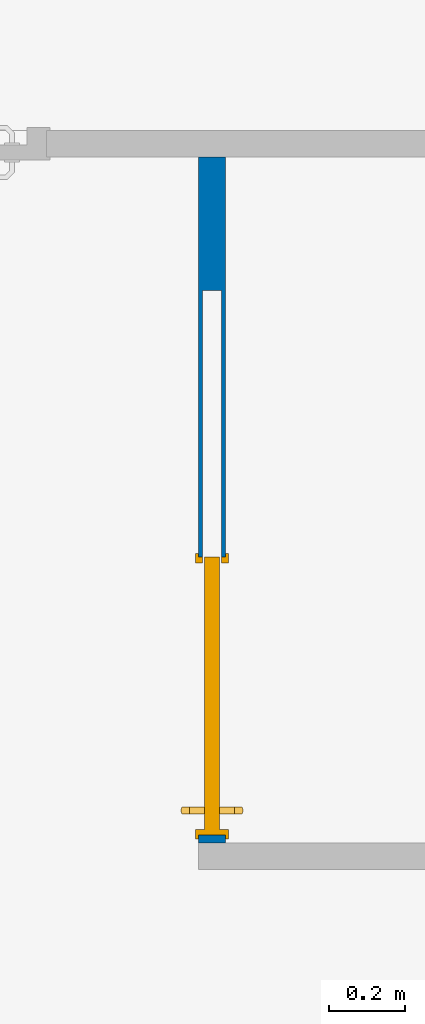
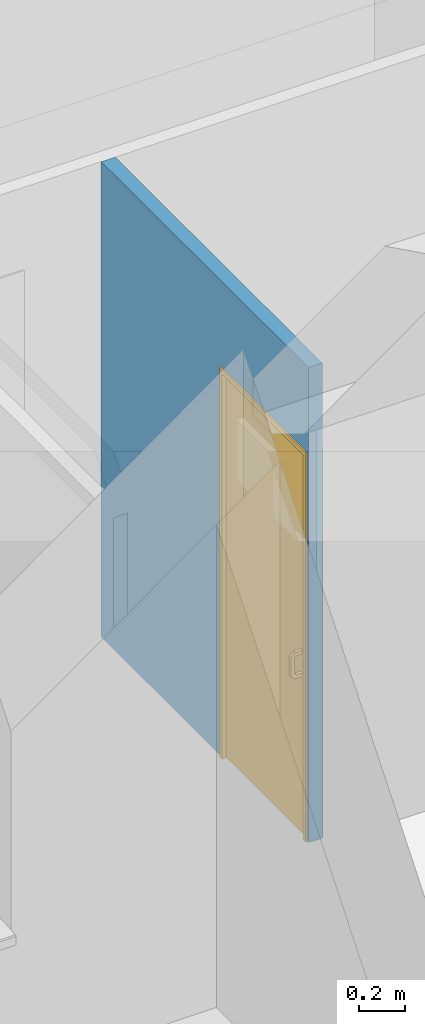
# One storey, part 29 of 50: 1 door, 1 wall, 1 opening.
"""IFC2X3 building model written with IfcOpenShell, lengths in metres."""

from ifc_helpers import new_model, entity, si_unit, converted_unit, derived_unit, direction, frame, frame_2d, origin, place, context, subcontext, project, spatial, rectangle, extrude, faceted_brep, source, transform, mapped, material, material_list, layer, layer_set, layer_usage, type_object, type_shapes, element, fill, save


model = new_model("IFC2X3")

# Units and contexts
model_context = context("Model", 3, precision=1e-05, world=origin(), true_north=direction((6.12303176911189e-17, 1.0)))
context_of_model = context(None, 3, precision=1e-05, world=origin(), true_north=direction((6.12303176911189e-17, 1.0)))
body_context = subcontext(model_context, "Body", "Model", "MODEL_VIEW")
ifc_project = project(units=[si_unit("LENGTHUNIT", "METRE"), si_unit("AREAUNIT", "SQUARE_METRE"), si_unit("VOLUMEUNIT", "CUBIC_METRE"), converted_unit("PLANEANGLEUNIT", "DEGREE", entity("IfcRatioMeasure", 0.0174532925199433), si_unit("PLANEANGLEUNIT", "RADIAN"), dimensions=[0, 0, 0, 0, 0, 0, 0]), si_unit("MASSUNIT", "GRAM", prefix="KILO"), si_unit("TIMEUNIT", "SECOND"), si_unit("FREQUENCYUNIT", "HERTZ"), si_unit("THERMODYNAMICTEMPERATUREUNIT", "DEGREE_CELSIUS"), derived_unit("THERMALTRANSMITTANCEUNIT", [(si_unit("MASSUNIT", "GRAM", prefix="KILO"), 1), (si_unit("THERMODYNAMICTEMPERATUREUNIT", "KELVIN"), -1), (si_unit("TIMEUNIT", "SECOND"), -3)]), derived_unit("VOLUMETRICFLOWRATEUNIT", [(si_unit("LENGTHUNIT", "METRE"), 3), (si_unit("TIMEUNIT", "SECOND"), -1)]), si_unit("ELECTRICCURRENTUNIT", "AMPERE"), si_unit("ELECTRICVOLTAGEUNIT", "VOLT"), si_unit("POWERUNIT", "WATT"), si_unit("FORCEUNIT", "NEWTON", prefix="KILO"), si_unit("ILLUMINANCEUNIT", "LUX"), si_unit("LUMINOUSFLUXUNIT", "LUMEN"), si_unit("LUMINOUSINTENSITYUNIT", "CANDELA"), si_unit("PRESSUREUNIT", "PASCAL")], contexts=[model_context, context_of_model])

# Site, building, storey
site_placement = place(None, origin())
site = spatial("IfcSite", under=ifc_project, at=site_placement, Name="Surface", CompositionType="ELEMENT")
building_placement = place(site_placement, origin())
building = spatial("IfcBuilding", under=site, at=building_placement, CompositionType="ELEMENT")
storey_placement = place(building_placement, frame((0.0, 0.0, 2.82)))
storey = spatial("IfcBuildingStorey", under=building, at=storey_placement, Name="ETAGE", CompositionType="ELEMENT", Elevation=2.82)

# Wall, opening, door
ifc_material_1 = material(Name="Peinture - Blanc")
ifc_layer = layer(ifc_material_1, 0.07)
ifc_layer_set = layer_set([ifc_layer], Name="Mur de base:Int.  Platre 70 mm en blanc")
ifc_layer_usage = layer_usage(ifc_layer_set, "AXIS2", "POSITIVE", -0.035)
wall_type = type_object("IfcWallType", Name="Mur de base:Int.  Platre 70 mm en blanc", PredefinedType="STANDARD", material=ifc_layer_set)
wall_placement = place(storey_placement, frame((81.0960189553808, 86.6075239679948, 0.0), z_axis=(0.0, 0.0, 1.0), x_axis=(0.0, -1.0, 0.0)))
wall = element("IfcWallStandardCase", 1, at=wall_placement, inside=storey, type_object=wall_type, material=ifc_layer_usage, Name="Mur de base:Int.  Platre 70 mm en blanc", ObjectType="Mur de base:Int.  Platre 70 mm en blanc", context=body_context, shape_type="SweptSolid", body=[
    extrude(rectangle(XDim=1.80000000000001, YDim=0.0699999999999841, at=frame_2d((0.900000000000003, 0.0), x_axis=(-1.0, 0.0))), origin(), (0.0, 0.0, 1.0), 2.52),
])
opening_placement = place(wall_placement, frame((1.77999999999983, -0.185000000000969, 0.0), z_axis=(0.0, 0.0, 1.0), x_axis=(0.0, 1.0, 0.0)))
opening = element("IfcOpeningElement", 2, at=opening_placement, cuts=wall, Name="Mur de base:Int.  Platre 70 mm en blanc", ObjectType="Opening", context=body_context, shape_type="Brep", body=[
    faceted_brep([(0.0, 0.0, 2.055), (0.0, 0.0, 0.0), (0.370000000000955, 0.0, 0.0), (0.370000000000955, 0.0, 2.055), (0.0, 0.729999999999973, 2.055), (0.0, 0.729999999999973, 0.0), (0.160000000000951, 0.729999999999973, 2.055), (0.160000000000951, 0.729999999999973, 0.0), (0.160000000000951, 1.42999999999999, 2.055), (0.160000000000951, 1.42999999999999, 0.0), (0.210000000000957, 1.42999999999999, 2.055), (0.210000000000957, 1.42999999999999, 0.0), (0.210000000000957, 0.729999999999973, 2.055), (0.210000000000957, 0.729999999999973, 0.0), (0.370000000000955, 0.72999999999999, 2.055), (0.370000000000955, 0.72999999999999, 0.0)], [[[0, 1, 2, 3]], [[4, 5, 1, 0]], [[6, 7, 5, 4]], [[8, 9, 7, 6]], [[10, 11, 9, 8]], [[12, 13, 11, 10]], [[14, 12, 10, 8, 6, 4, 0, 3]], [[15, 2, 1, 5, 7, 9, 11, 13]], [[3, 2, 15, 14]], [[14, 15, 13, 12]]]),
])
ifc_material_2 = material(Name="Porte - Poignée")
ifc_material_3 = material(Name="Porte - Panneau")
ifc_material_4 = material(Name="Porte - Cadre")
ifc_material_list_1 = material_list([ifc_material_2, ifc_material_3, ifc_material_4])
ifc_material_list_2 = material_list([ifc_material_2, ifc_material_3, ifc_material_4])
door_style = type_object("IfcDoorStyle", Name="0.70m x 2.04m 2", ConstructionType="NOTDEFINED", OperationType="SLIDING_TO_LEFT", ParameterTakesPrecedence=False, Sizeable=False, material=ifc_material_list_2)
shared_shape = source(origin(), body_context, "Body", "Brep", [
    faceted_brep([(0.778370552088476, 0.300805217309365, 0.949316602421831), (0.783009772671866, 0.300805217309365, 0.94874401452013), (0.787648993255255, 0.300805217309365, 0.94931660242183), (0.792009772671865, 0.300805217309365, 0.951000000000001), (0.792009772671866, 0.300805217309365, 0.969), (0.787648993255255, 0.300805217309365, 0.97068339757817), (0.783009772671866, 0.300805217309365, 0.971255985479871), (0.778370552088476, 0.300805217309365, 0.97068339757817), (0.774009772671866, 0.300805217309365, 0.969), (0.774009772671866, 0.300805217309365, 0.951000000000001), (0.778370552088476, 0.300805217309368, 0.850683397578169), (0.774009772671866, 0.300805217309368, 0.848999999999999), (0.774009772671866, 0.300805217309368, 0.831), (0.778370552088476, 0.300805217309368, 0.829316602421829), (0.783009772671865, 0.300805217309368, 0.828744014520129), (0.787648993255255, 0.300805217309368, 0.829316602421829), (0.792009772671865, 0.300805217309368, 0.831), (0.792009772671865, 0.300805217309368, 0.848999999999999), (0.787648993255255, 0.300805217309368, 0.850683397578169), (0.783009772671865, 0.300805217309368, 0.85125598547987), (0.792009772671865, 0.339533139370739, 0.831), (0.792009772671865, 0.359805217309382, 0.851272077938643), (0.792009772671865, 0.359805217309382, 0.948727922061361), (0.792009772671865, 0.33953313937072, 0.969), (0.792009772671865, 0.33207729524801, 0.951000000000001), (0.792009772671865, 0.341805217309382, 0.941272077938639), (0.792009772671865, 0.341805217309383, 0.858727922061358), (0.792009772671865, 0.332077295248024, 0.848999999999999), (0.787648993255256, 0.340230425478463, 0.97068339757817), (0.783009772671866, 0.340467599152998, 0.971255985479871), (0.778370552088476, 0.340230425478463, 0.97068339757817), (0.774009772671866, 0.33953313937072, 0.969), (0.774009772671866, 0.359805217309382, 0.948727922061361), (0.774009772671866, 0.359805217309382, 0.851272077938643), (0.774009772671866, 0.339533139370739, 0.831), (0.774009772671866, 0.332077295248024, 0.848999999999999), (0.774009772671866, 0.341805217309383, 0.858727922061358), (0.774009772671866, 0.341805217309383, 0.94127207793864), (0.774009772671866, 0.33207729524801, 0.951000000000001), (0.778370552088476, 0.331380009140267, 0.949316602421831), (0.783009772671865, 0.331142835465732, 0.94874401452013), (0.787648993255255, 0.331380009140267, 0.94931660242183), (0.787648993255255, 0.361488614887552, 0.949425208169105), (0.783009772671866, 0.362061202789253, 0.949662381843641), (0.778370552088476, 0.361488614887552, 0.949425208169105), (0.778370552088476, 0.340121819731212, 0.940574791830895), (0.783009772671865, 0.339549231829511, 0.940337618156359), (0.787648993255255, 0.340121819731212, 0.940574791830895), (0.787648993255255, 0.361488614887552, 0.850574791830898), (0.783009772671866, 0.362061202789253, 0.850337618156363), (0.778370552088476, 0.361488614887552, 0.850574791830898), (0.778370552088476, 0.340121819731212, 0.859425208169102), (0.783009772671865, 0.339549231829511, 0.859662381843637), (0.787648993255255, 0.340121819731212, 0.859425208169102), (0.787648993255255, 0.340230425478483, 0.829316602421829), (0.783009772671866, 0.340467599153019, 0.828744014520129), (0.778370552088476, 0.340230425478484, 0.829316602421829), (0.778370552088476, 0.33138000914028, 0.850683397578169), (0.783009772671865, 0.331142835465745, 0.85125598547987), (0.787648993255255, 0.33138000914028, 0.850683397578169)], [[[0, 1, 2, 3, 4, 5, 6, 7, 8, 9]], [[10, 11, 12, 13, 14, 15, 16, 17, 18, 19]], [[16, 20, 21, 22, 23, 4, 3, 24, 25, 26, 27, 17]], [[23, 28, 5, 4]], [[5, 28, 29, 6]], [[30, 7, 6, 29]], [[7, 30, 31, 8]], [[8, 31, 32, 33, 34, 12, 11, 35, 36, 37, 38, 9]], [[38, 39, 0, 9]], [[1, 0, 39, 40]], [[41, 24, 3, 2]], [[41, 2, 1, 40]], [[22, 42, 28, 23]], [[28, 42, 43, 29]], [[43, 44, 30, 29]], [[44, 32, 31, 30]], [[37, 45, 39, 38]], [[39, 45, 46, 40]], [[47, 25, 24, 41]], [[41, 40, 46, 47]], [[21, 48, 42, 22]], [[42, 48, 49, 43]], [[49, 50, 44, 43]], [[50, 33, 32, 44]], [[36, 51, 45, 37]], [[46, 45, 51, 52]], [[53, 26, 25, 47]], [[53, 47, 46, 52]], [[20, 54, 48, 21]], [[48, 54, 55, 49]], [[55, 56, 50, 49]], [[56, 34, 33, 50]], [[35, 57, 51, 36]], [[51, 57, 58, 52]], [[59, 27, 26, 53]], [[53, 52, 58, 59]], [[16, 15, 54, 20]], [[55, 54, 15, 14]], [[13, 12, 34, 56]], [[13, 56, 55, 14]], [[11, 10, 57, 35]], [[58, 57, 10, 19]], [[18, 17, 27, 59]], [[59, 58, 19, 18]]]),
    faceted_brep([(0.778370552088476, 0.260805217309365, 0.97068339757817), (0.783009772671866, 0.260805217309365, 0.971255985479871), (0.787648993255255, 0.260805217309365, 0.97068339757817), (0.792009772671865, 0.260805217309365, 0.969), (0.792009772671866, 0.260805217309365, 0.951000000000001), (0.787648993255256, 0.260805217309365, 0.94931660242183), (0.783009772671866, 0.260805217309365, 0.94874401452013), (0.778370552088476, 0.260805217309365, 0.94931660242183), (0.774009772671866, 0.260805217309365, 0.951000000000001), (0.774009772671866, 0.260805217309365, 0.969), (0.783009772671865, 0.260805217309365, 0.828744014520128), (0.778370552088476, 0.260805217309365, 0.829316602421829), (0.774009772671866, 0.260805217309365, 0.831), (0.774009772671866, 0.260805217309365, 0.848999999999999), (0.778370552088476, 0.260805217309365, 0.850683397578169), (0.783009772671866, 0.260805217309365, 0.85125598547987), (0.787648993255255, 0.260805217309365, 0.850683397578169), (0.792009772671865, 0.260805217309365, 0.848999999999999), (0.792009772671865, 0.260805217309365, 0.831), (0.787648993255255, 0.260805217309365, 0.829316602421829), (0.774009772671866, 0.222077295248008, 0.969), (0.778370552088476, 0.221380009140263, 0.97068339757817), (0.783009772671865, 0.221142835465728, 0.971255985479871), (0.787648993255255, 0.221380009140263, 0.970683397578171), (0.792009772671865, 0.222077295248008, 0.969), (0.792009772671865, 0.201805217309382, 0.948727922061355), (0.792009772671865, 0.201805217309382, 0.851272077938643), (0.792009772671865, 0.222077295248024, 0.831), (0.792009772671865, 0.22953313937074, 0.848999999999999), (0.792009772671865, 0.219805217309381, 0.858727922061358), (0.792009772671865, 0.219805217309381, 0.941272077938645), (0.792009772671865, 0.229533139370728, 0.951000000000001), (0.787648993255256, 0.230230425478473, 0.94931660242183), (0.783009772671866, 0.230467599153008, 0.94874401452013), (0.778370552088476, 0.230230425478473, 0.94931660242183), (0.774009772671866, 0.229533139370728, 0.951000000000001), (0.774009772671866, 0.222077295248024, 0.831), (0.774009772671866, 0.201805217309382, 0.851272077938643), (0.774009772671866, 0.201805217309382, 0.948727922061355), (0.774009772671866, 0.219805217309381, 0.941272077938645), (0.774009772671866, 0.219805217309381, 0.858727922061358), (0.774009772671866, 0.229533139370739, 0.848999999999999), (0.778370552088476, 0.200121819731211, 0.949425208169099), (0.783009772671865, 0.199549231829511, 0.949662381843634), (0.787648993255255, 0.200121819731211, 0.949425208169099), (0.787648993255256, 0.221488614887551, 0.940574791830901), (0.783009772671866, 0.222061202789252, 0.940337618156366), (0.778370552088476, 0.221488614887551, 0.940574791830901), (0.778370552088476, 0.200121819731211, 0.850574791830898), (0.783009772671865, 0.19954923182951, 0.850337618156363), (0.787648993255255, 0.200121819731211, 0.850574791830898), (0.787648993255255, 0.221488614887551, 0.859425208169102), (0.783009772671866, 0.222061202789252, 0.859662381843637), (0.778370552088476, 0.221488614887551, 0.859425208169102), (0.778370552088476, 0.22138000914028, 0.829316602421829), (0.783009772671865, 0.221142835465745, 0.828744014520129), (0.787648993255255, 0.22138000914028, 0.829316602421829), (0.787648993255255, 0.230230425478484, 0.850683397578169), (0.783009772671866, 0.230467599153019, 0.85125598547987), (0.778370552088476, 0.230230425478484, 0.850683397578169)], [[[0, 1, 2, 3, 4, 5, 6, 7, 8, 9]], [[10, 11, 12, 13, 14, 15, 16, 17, 18, 19]], [[20, 21, 0, 9]], [[0, 21, 22, 1]], [[23, 2, 1, 22]], [[2, 23, 24, 3]], [[3, 24, 25, 26, 27, 18, 17, 28, 29, 30, 31, 4]], [[31, 32, 5, 4]], [[6, 5, 32, 33]], [[34, 35, 8, 7]], [[34, 7, 6, 33]], [[12, 36, 37, 38, 20, 9, 8, 35, 39, 40, 41, 13]], [[38, 42, 21, 20]], [[21, 42, 43, 22]], [[43, 44, 23, 22]], [[44, 25, 24, 23]], [[30, 45, 32, 31]], [[32, 45, 46, 33]], [[47, 39, 35, 34]], [[34, 33, 46, 47]], [[37, 48, 42, 38]], [[42, 48, 49, 43]], [[49, 50, 44, 43]], [[50, 26, 25, 44]], [[29, 51, 45, 30]], [[46, 45, 51, 52]], [[53, 40, 39, 47]], [[53, 47, 46, 52]], [[36, 54, 48, 37]], [[48, 54, 55, 49]], [[55, 56, 50, 49]], [[56, 27, 26, 50]], [[28, 57, 51, 29]], [[51, 57, 58, 52]], [[59, 41, 40, 53]], [[53, 52, 58, 59]], [[12, 11, 54, 36]], [[55, 54, 11, 10]], [[19, 18, 27, 56]], [[19, 56, 55, 10]], [[17, 16, 57, 28]], [[58, 57, 16, 15]], [[14, 13, 41, 59]], [[59, 58, 15, 14]]]),
    faceted_brep([(0.733009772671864, 0.260805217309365, 2.04), (1.44800977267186, 0.260805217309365, 2.04), (1.44800977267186, 0.300805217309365, 2.04), (0.733009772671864, 0.300805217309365, 2.04), (0.733009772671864, 0.260805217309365, 0.0), (0.733009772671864, 0.300805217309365, 0.0), (1.44800977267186, 0.300805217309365, 0.0), (1.44800977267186, 0.260805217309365, 0.0)], [[[0, 1, 2, 3]], [[4, 5, 6, 7]], [[3, 5, 4, 0]], [[2, 6, 5, 3]], [[1, 7, 6, 2]], [[0, 4, 7, 1]]]),
    faceted_brep([(1.44800977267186, 0.315805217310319, 0.0), (1.44800977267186, 0.305805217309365, 0.0), (1.43300977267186, 0.305805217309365, 0.0), (1.43300977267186, 0.323805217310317, 0.0), (1.45800977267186, 0.323805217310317, 0.0), (1.45800977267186, 0.315805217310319, 0.0), (1.45800977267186, 0.315805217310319, 2.065), (0.708009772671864, 0.315805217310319, 2.065), (0.708009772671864, 0.315805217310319, 0.0), (0.718009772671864, 0.315805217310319, 0.0), (0.718009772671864, 0.315805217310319, 2.055), (1.44800977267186, 0.315805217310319, 2.055), (1.45800977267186, 0.323805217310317, 2.065), (1.43300977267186, 0.323805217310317, 2.04), (0.733009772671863, 0.323805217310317, 2.04), (0.733009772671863, 0.323805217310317, 0.0), (0.708009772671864, 0.323805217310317, 0.0), (0.708009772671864, 0.323805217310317, 2.065), (1.43300977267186, 0.305805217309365, 2.04), (1.44800977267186, 0.305805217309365, 2.04), (1.44800977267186, 0.245805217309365, 0.0), (1.44800977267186, 0.255805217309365, 0.0), (1.44800977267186, 0.255805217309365, 2.04), (1.44800977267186, 0.245805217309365, 2.055), (1.45800977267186, 0.237805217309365, 0.0), (1.45800977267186, 0.237805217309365, 2.065), (0.708009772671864, 0.237805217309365, 2.065), (0.708009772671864, 0.237805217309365, 0.0), (0.733009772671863, 0.237805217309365, 0.0), (0.733009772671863, 0.237805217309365, 2.04), (1.43300977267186, 0.237805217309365, 2.04), (1.43300977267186, 0.237805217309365, 0.0), (1.45800977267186, 0.245805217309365, 0.0), (1.45800977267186, 0.245805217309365, 2.065), (0.718009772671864, 0.245805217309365, 2.055), (0.718009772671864, 0.245805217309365, 0.0), (0.708009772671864, 0.245805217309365, 0.0), (0.708009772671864, 0.245805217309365, 2.065), (1.43300977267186, 0.255805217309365, 0.0), (1.43300977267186, 0.255805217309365, 2.04)], [[[0, 1, 2, 3, 4, 5]], [[5, 6, 7, 8, 9, 10, 11, 0]], [[4, 12, 6, 5]], [[3, 13, 14, 15, 16, 17, 12, 4]], [[3, 2, 18, 13]], [[18, 2, 1, 19]], [[20, 21, 22, 19, 1, 0, 11, 23]], [[24, 25, 26, 27, 28, 29, 30, 31]], [[32, 33, 25, 24]], [[20, 23, 34, 35, 36, 37, 33, 32]], [[22, 21, 38, 39]], [[9, 35, 34, 10]], [[8, 16, 15, 28, 27, 36, 35, 9]], [[7, 17, 16, 8]], [[14, 29, 28, 15]], [[26, 37, 36, 27]], [[11, 10, 34, 23]], [[6, 12, 17, 7]], [[13, 18, 19, 22, 39, 30, 29, 14]], [[25, 33, 37, 26]], [[30, 39, 38, 31]], [[31, 38, 21, 20, 32, 24]]]),
])
type_shapes(door_style, [shared_shape])
door_placement = place(opening_placement, frame((0.465805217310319, -0.718009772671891, 0.0), z_axis=(0.0, 0.0, 1.0), x_axis=(0.0, 1.0, 0.0)))
door = element("IfcDoor", 3, at=door_placement, inside=storey, type_object=door_style, material=ifc_material_list_1, Name="Coulissante - Encastrée:0.70m x 2.04m 2", ObjectType="0.70m x 2.04m 2", OverallHeight=2.065, OverallWidth=1.44000000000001, context=body_context, shape_type="MappedRepresentation", body=[
    mapped(shared_shape, transform((0.0, 0.0, 0.0), scale=1.0)),
])
fill(opening, door)

save(model, "model.ifc")
